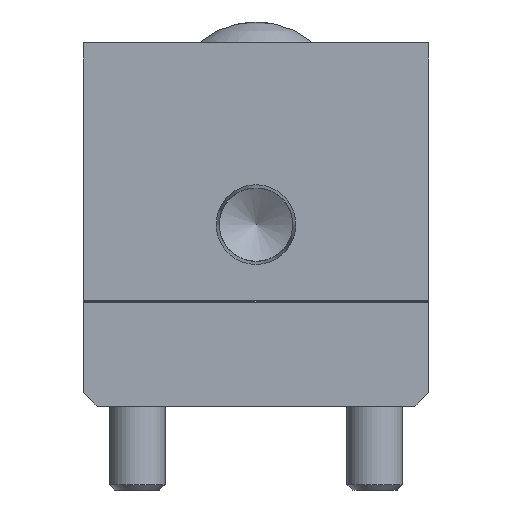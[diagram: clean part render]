
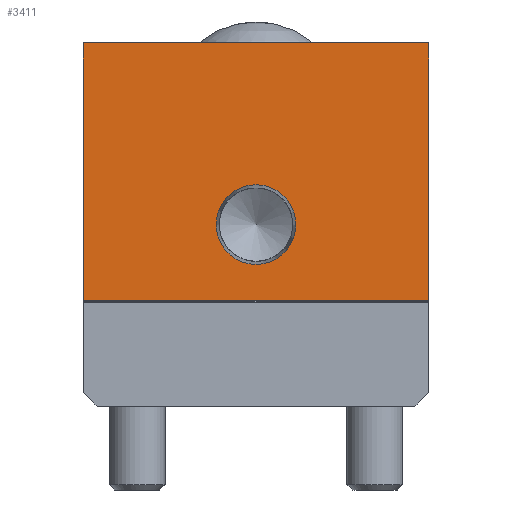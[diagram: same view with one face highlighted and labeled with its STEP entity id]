
A CAD part, front view. The second image highlights one B-rep face of the part: STEP entity #3411.
In plain terms, the highlighted planar face has unit normal (0, -1, 0).
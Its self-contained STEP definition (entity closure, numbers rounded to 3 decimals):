
#189=FACE_BOUND('',#714,.T.);
#281=CIRCLE('',#3633,5.704);
#463=FACE_OUTER_BOUND('',#713,.T.);
#713=EDGE_LOOP('',(#2444,#2445,#2446,#2447));
#714=EDGE_LOOP('',(#2448));
#1037=LINE('',#5060,#1305);
#1040=LINE('',#5065,#1308);
#1042=LINE('',#5073,#1310);
#1056=LINE('',#5109,#1324);
#1305=VECTOR('',#4090,36.9);
#1308=VECTOR('',#4095,49.5);
#1310=VECTOR('',#4103,36.9);
#1324=VECTOR('',#4147,49.5);
#1556=VERTEX_POINT('',#5057);
#1557=VERTEX_POINT('',#5059);
#1558=VERTEX_POINT('',#5063);
#1561=VERTEX_POINT('',#5071);
#1565=VERTEX_POINT('',#5085);
#1877=EDGE_CURVE('',#1557,#1556,#1037,.T.);
#1880=EDGE_CURVE('',#1556,#1558,#1040,.T.);
#1884=EDGE_CURVE('',#1561,#1558,#1042,.T.);
#1889=EDGE_CURVE('',#1565,#1565,#281,.T.);
#1902=EDGE_CURVE('',#1561,#1557,#1056,.T.);
#2444=ORIENTED_EDGE('',*,*,#1902,.T.);
#2445=ORIENTED_EDGE('',*,*,#1877,.T.);
#2446=ORIENTED_EDGE('',*,*,#1880,.T.);
#2447=ORIENTED_EDGE('',*,*,#1884,.F.);
#2448=ORIENTED_EDGE('',*,*,#1889,.T.);
#3081=PLANE('',#3666);
#3411=ADVANCED_FACE('',(#463,#189),#3081,.T.);
#3633=AXIS2_PLACEMENT_3D('',#5086,#4118,#4119);
#3666=AXIS2_PLACEMENT_3D('',#5147,#4201,#4202);
#4090=DIRECTION('',(0.,0.,1.));
#4095=DIRECTION('',(-1.,0.,0.));
#4103=DIRECTION('',(0.,0.,1.));
#4118=DIRECTION('center_axis',(0.,1.,0.));
#4119=DIRECTION('ref_axis',(1.,0.,0.));
#4147=DIRECTION('',(1.,0.,0.));
#4201=DIRECTION('center_axis',(0.,-1.,0.));
#4202=DIRECTION('ref_axis',(0.,0.,-1.));
#5057=CARTESIAN_POINT('',(24.75,0.,52.));
#5059=CARTESIAN_POINT('',(24.75,0.,15.1));
#5060=CARTESIAN_POINT('',(24.75,0.,0.));
#5063=CARTESIAN_POINT('',(-24.75,0.,52.));
#5065=CARTESIAN_POINT('',(24.75,0.,52.));
#5071=CARTESIAN_POINT('',(-24.75,0.,15.1));
#5073=CARTESIAN_POINT('',(-24.75,0.,0.));
#5085=CARTESIAN_POINT('',(5.704,0.,26.));
#5086=CARTESIAN_POINT('Origin',(0.,0.,26.));
#5109=CARTESIAN_POINT('',(24.75,0.,15.1));
#5147=CARTESIAN_POINT('Origin',(24.75,0.,0.));
